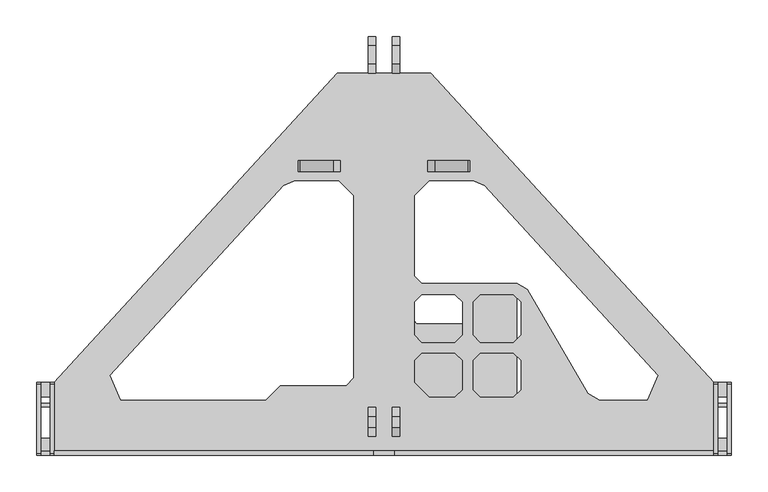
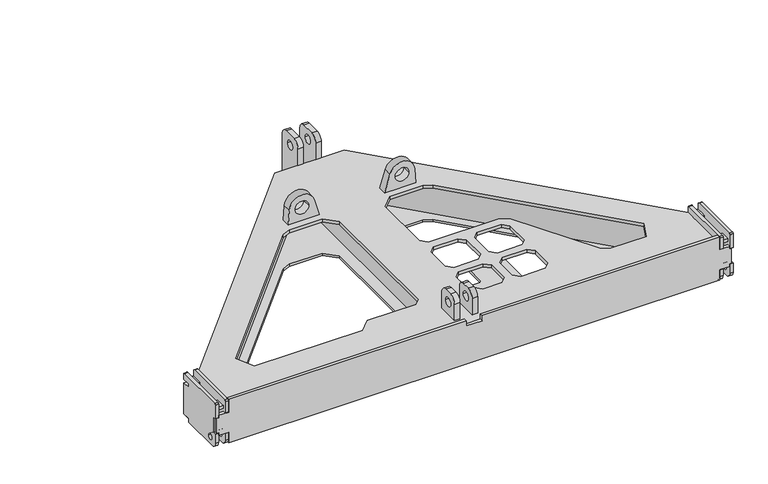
"""IFC4 building model written with IfcOpenShell, lengths in millimetres: proxy geometry, d&b SL-Series KSLi Flying Frame : KSLi Flying Frame."""

from ifc_helpers import new_model, si_unit, point, frame, frame_2d, origin, origin_with_axes, place, context, project, spatial, polyline, circle_curve, trimmed, segment, composite_curve, outline, extrude, source, transform, mapped, element, save


def communication_devices_b4faaad9(model_context):
    return source(origin(), model_context, "Body", "SweptSolid", [
        extrude(outline(polyline([(-435.1164011, 93.4221199), (-438.8083101, 96.7940344), (-54.4100512, 517.6716633), (-50.7181421, 514.2997488), (-435.1164011, 93.4221199)])), frame((0.0, 0.0, 4.0), z_axis=(0.0, 0.0, 1.0), x_axis=(1.0, 0.0, 0.0)), (0.0, 0.0, 1.0), 61.0),
        extrude(outline(polyline([(-35.950506, 500.8120906), (-420.348765, 79.9344617), (-424.040674, 83.3063762), (-39.6424151, 504.1840051), (-35.950506, 500.8120906)])), frame((0.0, 0.0, 4.0), z_axis=(0.0, 0.0, 1.0), x_axis=(1.0, 0.0, 0.0)), (0.0, 0.0, 1.0), 61.0),
        extrude(outline(polyline([(435.1164011, 93.4221199), (50.7181421, 514.2997488), (54.4100512, 517.6716633), (438.8083101, 96.7940344), (435.1164011, 93.4221199)])), frame((0.0, 0.0, 4.0), z_axis=(0.0, 0.0, 1.0), x_axis=(1.0, 0.0, 0.0)), (0.0, 0.0, 1.0), 61.0),
        extrude(outline(polyline([(35.950506, 500.8120906), (39.6424151, 504.1840051), (424.040674, 83.3063762), (420.348765, 79.9344617), (35.950506, 500.8120906)])), frame((0.0, 0.0, 4.0), z_axis=(0.0, 0.0, 1.0), x_axis=(1.0, 0.0, 0.0)), (0.0, 0.0, 1.0), 61.0),
        extrude(outline(composite_curve([segment(trimmed(circle_curve(frame_2d((559.5, 103.0)), 12.5), [point((559.5, 115.5))], [point((572.0, 103.0))], False, "CARTESIAN"), True, "CONTINUOUS"), segment(polyline([(572.0, 103.0), (572.0, 16.5)]), True, "CONTINUOUS"), segment(trimmed(circle_curve(frame_2d((559.5, 16.5)), 12.5), [point((572.0, 16.5))], [point((559.5, 4.0))], False, "CARTESIAN"), True, "CONTINUOUS"), segment(polyline([(559.5, 4.0), (70.25, 4.0), (70.25, 65.0), (522.0, 65.0), (522.0, 103.0)]), True, "CONTINUOUS"), segment(trimmed(circle_curve(frame_2d((534.5, 103.0)), 12.5), [point((522.0, 103.0))], [point((534.5, 115.5))], False, "CARTESIAN"), True, "CONTINUOUS"), segment(polyline([(534.5, 115.5), (559.5, 115.5)]), True, "CONTINUOUS")], self_intersect=False), holes=[composite_curve([segment(trimmed(circle_curve(frame_2d((547.0, 95.5)), 8.2930381), [point((538.7069619, 95.5))], [point((555.2930381, 95.5))], True, "CARTESIAN"), True, "CONTINUOUS"), segment(trimmed(circle_curve(frame_2d((547.0, 95.5)), 8.2930381), [point((555.2930381, 95.5))], [point((538.7069619, 95.5))], True, "CARTESIAN"), True, "CONTINUOUS")], self_intersect=False), composite_curve([segment(trimmed(circle_curve(frame_2d((547.0, 22.0)), 8.2930381), [point((538.7069619, 22.0))], [point((555.2930381, 22.0))], True, "CARTESIAN"), True, "CONTINUOUS"), segment(trimmed(circle_curve(frame_2d((547.0, 22.0)), 8.2930381), [point((555.2930381, 22.0))], [point((538.7069619, 22.0))], True, "CARTESIAN"), True, "CONTINUOUS")], self_intersect=False)]), frame((11.25, 0.0, 0.0), z_axis=(1.0, 0.0, 0.0), x_axis=(0.0, 1.0, 0.0)), (0.0, 0.0, 1.0), 10.0),
        extrude(outline(composite_curve([segment(polyline([(64.0, 71.0), (24.0, 71.0), (24.0, 103.0091443)]), True, "CONTINUOUS"), segment(trimmed(circle_curve(frame_2d((36.4908557, 103.0091443)), 12.4908557), [point((24.0, 103.0091443))], [point((36.4908557, 115.5))], False, "CARTESIAN"), True, "CONTINUOUS"), segment(polyline([(36.4908557, 115.5), (51.5, 115.5)]), True, "CONTINUOUS"), segment(trimmed(circle_curve(frame_2d((51.5, 103.0)), 12.5), [point((51.5, 115.5))], [point((64.0, 103.0))], False, "CARTESIAN"), True, "CONTINUOUS"), segment(polyline([(64.0, 103.0), (64.0, 71.0)]), True, "CONTINUOUS")], self_intersect=False), holes=[composite_curve([segment(trimmed(circle_curve(frame_2d((43.9954278, 95.5)), 8.2930381), [point((35.7023897, 95.5))], [point((52.288466, 95.5))], True, "CARTESIAN"), True, "CONTINUOUS"), segment(trimmed(circle_curve(frame_2d((43.9954278, 95.5)), 8.2930381), [point((52.288466, 95.5))], [point((35.7023897, 95.5))], True, "CARTESIAN"), True, "CONTINUOUS")], self_intersect=False)]), frame((11.25, 0.0, 0.0), z_axis=(1.0, 0.0, 0.0), x_axis=(0.0, 1.0, 0.0)), (0.0, 0.0, 1.0), 10.0),
        extrude(outline(polyline([(-472.75, 98.0), (-451.25, 98.0), (-64.0, 522.0), (64.0, 522.0), (451.25, 98.0), (472.75, 98.0), (472.75, 82.5), (469.75, 82.5), (469.75, 78.0), (457.25, 78.0), (457.25, 82.5), (451.25, 82.5), (451.25, 4.0), (-451.25, 4.0), (-451.25, 82.5), (-457.25, 82.5), (-457.25, 78.0), (-469.75, 78.0), (-469.75, 82.5), (-472.75, 82.5), (-472.75, 98.0)]), holes=[polyline([(-360.1013992, 74.0), (-62.0, 74.0), (-42.0, 94.0), (-42.0, 354.0), (-62.0, 374.0), (-122.6367766, 374.0), (-137.4044127, 367.4876582), (-374.8690353, 107.4876582), (-360.1013992, 74.0)]), polyline([(122.6367766, 374.0), (62.0, 374.0), (42.0, 354.0), (42.0, 182.0), (45.0, 179.0), (114.5, 179.0), (117.5, 182.0), (117.5, 221.0), (120.5, 224.0), (179.5, 224.0), (182.5, 221.0), (182.5, 77.0), (185.5, 74.0), (360.1013992, 74.0), (374.8690353, 107.4876582), (137.4044127, 367.4876582), (122.6367766, 374.0)])]), origin_with_axes(), (0.0, 0.0, 1.0), 4.0),
        extrude(outline(composite_curve([segment(polyline([(0.0, 84.0), (96.0, 84.0)]), True, "CONTINUOUS"), segment(trimmed(circle_curve(frame_2d((96.0, 82.0)), 2.0), [point((96.0, 84.0))], [point((98.0, 82.0))], False, "CARTESIAN"), True, "CONTINUOUS"), segment(polyline([(98.0, 82.0), (98.0, 71.5), (82.5, 71.5), (82.5, 64.5), (98.0, 64.5), (98.0, 4.5), (82.5, 4.5), (82.5, -1.0)]), True, "CONTINUOUS"), segment(trimmed(circle_curve(frame_2d((80.5, -1.0)), 2.0), [point((82.5, -1.0))], [point((80.5, -3.0))], False, "CARTESIAN"), True, "CONTINUOUS"), segment(polyline([(80.5, -3.0), (8.0, -3.0)]), True, "CONTINUOUS"), segment(trimmed(circle_curve(frame_2d((8.0, 7.0)), 10.0), [point((8.0, -3.0))], [point((-2.0, 7.0))], False, "CARTESIAN"), True, "CONTINUOUS"), segment(polyline([(-2.0, 7.0), (-2.0, 20.0), (4.5, 20.0), (4.5, 60.0), (-2.0, 60.0), (-2.0, 82.0)]), True, "CONTINUOUS"), segment(trimmed(circle_curve(frame_2d((0.0, 82.0)), 2.0), [point((-2.0, 82.0))], [point((0.0, 84.0))], False, "CARTESIAN"), True, "CONTINUOUS")], self_intersect=False), holes=[composite_curve([segment(trimmed(circle_curve(frame_2d((14.0, 11.0)), 5.15), [point((8.85, 11.0))], [point((19.15, 11.0))], True, "CARTESIAN"), True, "CONTINUOUS"), segment(trimmed(circle_curve(frame_2d((14.0, 11.0)), 5.15), [point((19.15, 11.0))], [point((8.85, 11.0))], True, "CARTESIAN"), True, "CONTINUOUS")], self_intersect=False)]), frame((451.25, 0.0, 0.0), z_axis=(1.0, 0.0, 0.0), x_axis=(0.0, 1.0, 0.0)), (0.0, 0.0, 1.0), 6.0),
        extrude(outline(composite_curve([segment(polyline([(0.0, 84.0), (96.0, 84.0)]), True, "CONTINUOUS"), segment(trimmed(circle_curve(frame_2d((96.0, 82.0)), 2.0), [point((96.0, 84.0))], [point((98.0, 82.0))], False, "CARTESIAN"), True, "CONTINUOUS"), segment(polyline([(98.0, 82.0), (98.0, 71.5), (82.5, 71.5), (82.5, 64.5), (98.0, 64.5), (98.0, 4.5), (82.5, 4.5), (82.5, -1.0)]), True, "CONTINUOUS"), segment(trimmed(circle_curve(frame_2d((80.5, -1.0)), 2.0), [point((82.5, -1.0))], [point((80.5, -3.0))], False, "CARTESIAN"), True, "CONTINUOUS"), segment(polyline([(80.5, -3.0), (8.0, -3.0)]), True, "CONTINUOUS"), segment(trimmed(circle_curve(frame_2d((8.0, 7.0)), 10.0), [point((8.0, -3.0))], [point((-2.0, 7.0))], False, "CARTESIAN"), True, "CONTINUOUS"), segment(polyline([(-2.0, 7.0), (-2.0, 24.9561632), (4.5, 24.9561632), (4.5, 55.0), (-2.0, 55.0), (-2.0, 82.0)]), True, "CONTINUOUS"), segment(trimmed(circle_curve(frame_2d((0.0, 82.0)), 2.0), [point((-2.0, 82.0))], [point((0.0, 84.0))], False, "CARTESIAN"), True, "CONTINUOUS")], self_intersect=False), holes=[composite_curve([segment(trimmed(circle_curve(frame_2d((14.0, 11.0)), 5.15), [point((8.85, 11.0))], [point((19.15, 11.0))], True, "CARTESIAN"), True, "CONTINUOUS"), segment(trimmed(circle_curve(frame_2d((14.0, 11.0)), 5.15), [point((19.15, 11.0))], [point((8.85, 11.0))], True, "CARTESIAN"), True, "CONTINUOUS")], self_intersect=False)]), frame((469.75, 0.0, 0.0), z_axis=(1.0, 0.0, 0.0), x_axis=(0.0, 1.0, 0.0)), (0.0, 0.0, 1.0), 6.0),
        extrude(outline(polyline([(457.25, 4.0), (457.25, 21.0), (469.75, 21.0), (469.75, 4.0), (457.25, 4.0)])), frame((0.0, 0.0, 65.0), z_axis=(0.0, 0.0, 1.0), x_axis=(1.0, 0.0, 0.0)), (0.0, 0.0, 1.0), 6.0),
        extrude(outline(polyline([(457.25, 78.0), (457.25, 98.0), (469.75, 98.0), (469.75, 78.0), (457.25, 78.0)])), frame((0.0, 0.0, 65.0), z_axis=(0.0, 0.0, 1.0), x_axis=(1.0, 0.0, 0.0)), (0.0, 0.0, 1.0), 6.0),
        extrude(outline(polyline([(457.25, 64.25), (457.25, 69.25), (469.75, 69.25), (469.75, 64.25), (457.25, 64.25)])), frame((0.0, 0.0, 8.0), z_axis=(0.0, 0.0, 1.0), x_axis=(1.0, 0.0, 0.0)), (0.0, 0.0, 1.0), 53.0),
        extrude(outline(polyline([(84.0, -451.25), (59.5, -451.25), (59.5, -469.75), (54.5, -469.75), (54.5, -472.75), (25.5, -472.75), (25.5, -469.75), (20.5, -469.75), (20.5, -451.25), (0.0, -451.25), (0.0, 451.25), (20.5, 451.25), (20.5, 469.75), (25.5, 469.75), (25.5, 472.75), (54.5, 472.75), (54.5, 469.75), (59.5, 469.75), (59.5, 451.25), (84.0, 451.25), (84.0, 15.0), (74.0, 15.0), (74.0, -15.0), (84.0, -15.0), (84.0, -451.25)])), frame((0.0, -2.0, 0.0), z_axis=(0.0, 1.0, 0.0), x_axis=(0.0, 0.0, 1.0)), (0.0, 0.0, 1.0), 6.0),
        extrude(outline(composite_curve([segment(polyline([(0.0, 84.0), (96.0, 84.0)]), True, "CONTINUOUS"), segment(trimmed(circle_curve(frame_2d((96.0, 82.0)), 2.0), [point((96.0, 84.0))], [point((98.0, 82.0))], False, "CARTESIAN"), True, "CONTINUOUS"), segment(polyline([(98.0, 82.0), (98.0, 71.5), (82.5, 71.5), (82.5, 64.5), (98.0, 64.5), (98.0, 4.5), (82.5, 4.5), (82.5, -1.0)]), True, "CONTINUOUS"), segment(trimmed(circle_curve(frame_2d((80.5, -1.0)), 2.0), [point((82.5, -1.0))], [point((80.5, -3.0))], False, "CARTESIAN"), True, "CONTINUOUS"), segment(polyline([(80.5, -3.0), (8.0, -3.0)]), True, "CONTINUOUS"), segment(trimmed(circle_curve(frame_2d((8.0, 7.0)), 10.0), [point((8.0, -3.0))], [point((-2.0, 7.0))], False, "CARTESIAN"), True, "CONTINUOUS"), segment(polyline([(-2.0, 7.0), (-2.0, 20.0), (4.5, 20.0), (4.5, 60.0), (-2.0, 60.0), (-2.0, 82.0)]), True, "CONTINUOUS"), segment(trimmed(circle_curve(frame_2d((0.0, 82.0)), 2.0), [point((-2.0, 82.0))], [point((0.0, 84.0))], False, "CARTESIAN"), True, "CONTINUOUS")], self_intersect=False), holes=[composite_curve([segment(trimmed(circle_curve(frame_2d((14.0, 11.0)), 5.15), [point((8.85, 11.0))], [point((19.15, 11.0))], True, "CARTESIAN"), True, "CONTINUOUS"), segment(trimmed(circle_curve(frame_2d((14.0, 11.0)), 5.15), [point((19.15, 11.0))], [point((8.85, 11.0))], True, "CARTESIAN"), True, "CONTINUOUS")], self_intersect=False)]), frame((-457.25, 0.0, 0.0), z_axis=(1.0, 0.0, 0.0), x_axis=(0.0, 1.0, 0.0)), (0.0, 0.0, 1.0), 6.0),
        extrude(outline(composite_curve([segment(polyline([(0.0, 84.0), (96.0, 84.0)]), True, "CONTINUOUS"), segment(trimmed(circle_curve(frame_2d((96.0, 82.0)), 2.0), [point((96.0, 84.0))], [point((98.0, 82.0))], False, "CARTESIAN"), True, "CONTINUOUS"), segment(polyline([(98.0, 82.0), (98.0, 71.5), (82.5, 71.5), (82.5, 64.5), (98.0, 64.5), (98.0, 4.5), (82.5, 4.5), (82.5, -1.0)]), True, "CONTINUOUS"), segment(trimmed(circle_curve(frame_2d((80.5, -1.0)), 2.0), [point((82.5, -1.0))], [point((80.5, -3.0))], False, "CARTESIAN"), True, "CONTINUOUS"), segment(polyline([(80.5, -3.0), (8.0, -3.0)]), True, "CONTINUOUS"), segment(trimmed(circle_curve(frame_2d((8.0, 7.0)), 10.0), [point((8.0, -3.0))], [point((-2.0, 7.0))], False, "CARTESIAN"), True, "CONTINUOUS"), segment(polyline([(-2.0, 7.0), (-2.0, 24.9561632), (4.5, 24.9561632), (4.5, 55.0), (-2.0, 55.0), (-2.0, 82.0)]), True, "CONTINUOUS"), segment(trimmed(circle_curve(frame_2d((0.0, 82.0)), 2.0), [point((-2.0, 82.0))], [point((0.0, 84.0))], False, "CARTESIAN"), True, "CONTINUOUS")], self_intersect=False), holes=[composite_curve([segment(trimmed(circle_curve(frame_2d((14.0, 11.0)), 5.15), [point((8.85, 11.0))], [point((19.15, 11.0))], True, "CARTESIAN"), True, "CONTINUOUS"), segment(trimmed(circle_curve(frame_2d((14.0, 11.0)), 5.15), [point((19.15, 11.0))], [point((8.85, 11.0))], True, "CARTESIAN"), True, "CONTINUOUS")], self_intersect=False)]), frame((-475.75, 0.0, 0.0), z_axis=(1.0, 0.0, 0.0), x_axis=(0.0, 1.0, 0.0)), (0.0, 0.0, 1.0), 6.0),
        extrude(outline(composite_curve([segment(trimmed(circle_curve(frame_2d((97.0403038, 92.0042964)), 23.4926614), [point((98.8207703, 115.4293915))], [point((103.7189339, 69.4809522))], False, "CARTESIAN"), True, "CONTINUOUS"), segment(polyline([(103.7189339, 69.4809522), (71.0, 59.7791221), (71.0, 117.5439592), (98.8207703, 115.4293915)]), True, "CONTINUOUS")], self_intersect=False), holes=[composite_curve([segment(trimmed(circle_curve(frame_2d((95.9465538, 92.0042964)), 12.4025698), [point((95.9465538, 104.4068662))], [point((95.9465538, 79.6017267))], True, "CARTESIAN"), True, "CONTINUOUS"), segment(trimmed(circle_curve(frame_2d((95.9465538, 92.0042964)), 12.4025698), [point((95.9465538, 79.6017267))], [point((95.9465538, 104.4068662))], True, "CARTESIAN"), True, "CONTINUOUS")], self_intersect=False)]), frame((0.0, 386.75, 0.0), z_axis=(0.0, 1.0, 0.0), x_axis=(0.0, 0.0, 1.0)), (0.0, 0.0, 1.0), 15.0),
        extrude(outline(composite_curve([segment(polyline([(98.8207703, -115.4293915), (71.0, -117.5439592), (71.0, -59.7791221), (103.7189339, -69.4809522)]), True, "CONTINUOUS"), segment(trimmed(circle_curve(frame_2d((97.0403038, -92.0042964)), 23.4926614), [point((103.7189339, -69.4809522))], [point((98.8207703, -115.4293915))], False, "CARTESIAN"), True, "CONTINUOUS")], self_intersect=False), holes=[composite_curve([segment(trimmed(circle_curve(frame_2d((95.9465538, -92.0042964)), 12.4025698), [point((95.9465538, -79.6017267))], [point((95.9465538, -104.4068662))], True, "CARTESIAN"), True, "CONTINUOUS"), segment(trimmed(circle_curve(frame_2d((95.9465538, -92.0042964)), 12.4025698), [point((95.9465538, -104.4068662))], [point((95.9465538, -79.6017267))], True, "CARTESIAN"), True, "CONTINUOUS")], self_intersect=False)]), frame((0.0, 386.75, 0.0), z_axis=(0.0, 1.0, 0.0), x_axis=(0.0, 0.0, 1.0)), (0.0, 0.0, 1.0), 15.0),
        extrude(outline(composite_curve([segment(trimmed(circle_curve(frame_2d((559.5, 103.0)), 12.5), [point((559.5, 115.5))], [point((572.0, 103.0))], False, "CARTESIAN"), True, "CONTINUOUS"), segment(polyline([(572.0, 103.0), (572.0, 16.5)]), True, "CONTINUOUS"), segment(trimmed(circle_curve(frame_2d((559.5, 16.5)), 12.5), [point((572.0, 16.5))], [point((559.5, 4.0))], False, "CARTESIAN"), True, "CONTINUOUS"), segment(polyline([(559.5, 4.0), (69.25, 4.0), (69.25, 65.0), (522.0, 65.0), (522.0, 103.0)]), True, "CONTINUOUS"), segment(trimmed(circle_curve(frame_2d((534.5, 103.0)), 12.5), [point((522.0, 103.0))], [point((534.5, 115.5))], False, "CARTESIAN"), True, "CONTINUOUS"), segment(polyline([(534.5, 115.5), (559.5, 115.5)]), True, "CONTINUOUS")], self_intersect=False), holes=[composite_curve([segment(trimmed(circle_curve(frame_2d((547.0, 95.5)), 8.2930381), [point((538.7069619, 95.5))], [point((555.2930381, 95.5))], True, "CARTESIAN"), True, "CONTINUOUS"), segment(trimmed(circle_curve(frame_2d((547.0, 95.5)), 8.2930381), [point((555.2930381, 95.5))], [point((538.7069619, 95.5))], True, "CARTESIAN"), True, "CONTINUOUS")], self_intersect=False), composite_curve([segment(trimmed(circle_curve(frame_2d((547.0, 22.0)), 8.2930381), [point((538.7069619, 22.0))], [point((555.2930381, 22.0))], True, "CARTESIAN"), True, "CONTINUOUS"), segment(trimmed(circle_curve(frame_2d((547.0, 22.0)), 8.2930381), [point((555.2930381, 22.0))], [point((538.7069619, 22.0))], True, "CARTESIAN"), True, "CONTINUOUS")], self_intersect=False)]), frame((-21.25, 0.0, 0.0), z_axis=(1.0, 0.0, 0.0), x_axis=(0.0, 1.0, 0.0)), (0.0, 0.0, 1.0), 10.0),
        extrude(outline(composite_curve([segment(polyline([(64.0, 71.0), (24.0, 71.0), (24.0, 103.0091443)]), True, "CONTINUOUS"), segment(trimmed(circle_curve(frame_2d((36.4908557, 103.0091443)), 12.4908557), [point((24.0, 103.0091443))], [point((36.4908557, 115.5))], False, "CARTESIAN"), True, "CONTINUOUS"), segment(polyline([(36.4908557, 115.5), (51.5, 115.5)]), True, "CONTINUOUS"), segment(trimmed(circle_curve(frame_2d((51.5, 103.0)), 12.5), [point((51.5, 115.5))], [point((64.0, 103.0))], False, "CARTESIAN"), True, "CONTINUOUS"), segment(polyline([(64.0, 103.0), (64.0, 71.0)]), True, "CONTINUOUS")], self_intersect=False), holes=[composite_curve([segment(trimmed(circle_curve(frame_2d((43.9954278, 95.5)), 8.2930381), [point((35.7023897, 95.5))], [point((52.288466, 95.5))], True, "CARTESIAN"), True, "CONTINUOUS"), segment(trimmed(circle_curve(frame_2d((43.9954278, 95.5)), 8.2930381), [point((52.288466, 95.5))], [point((35.7023897, 95.5))], True, "CARTESIAN"), True, "CONTINUOUS")], self_intersect=False)]), frame((-21.25, 0.0, 0.0), z_axis=(1.0, 0.0, 0.0), x_axis=(0.0, 1.0, 0.0)), (0.0, 0.0, 1.0), 10.0),
        extrude(outline(polyline([(-451.25, 98.0), (-64.0, 522.0), (64.0, 522.0), (451.25, 98.0), (451.25, 4.0), (-451.25, 4.0), (-451.25, 98.0)]), holes=[polyline([(42.0, 98.0), (62.0, 78.0), (97.0, 78.0), (107.0, 88.0), (107.0, 128.0), (97.0, 138.0), (52.0, 138.0), (42.0, 128.0), (42.0, 98.0)]), polyline([(122.0, 128.0), (122.0, 88.0), (132.0, 78.0), (177.0, 78.0), (187.0, 88.0), (187.0, 128.0), (177.0, 138.0), (132.0, 138.0), (122.0, 128.0)]), polyline([(122.0, 163.0), (132.0, 153.0), (177.0, 153.0), (187.0, 163.0), (187.0, 208.0), (177.0, 218.0), (132.0, 218.0), (122.0, 208.0), (122.0, 163.0)]), polyline([(107.0, 163.0), (107.0, 208.0), (97.0, 218.0), (52.0, 218.0), (42.0, 208.0), (42.0, 163.0), (52.0, 153.0), (97.0, 153.0), (107.0, 163.0)]), polyline([(-137.4044127, 367.4876582), (-374.8690353, 107.4876582), (-360.1013992, 74.0), (-162.0, 74.0), (-142.0, 94.0), (-52.0, 94.0), (-42.0, 104.0), (-42.0, 354.0), (-62.0, 374.0), (-122.6367766, 374.0), (-137.4044127, 367.4876582)]), polyline([(279.3760431, 82.660254), (294.3760431, 74.0), (360.1013992, 74.0), (374.8690353, 107.4876582), (137.4044127, 367.4876582), (122.6367766, 374.0), (62.0, 374.0), (42.0, 354.0), (42.0, 244.0), (52.0, 234.0), (182.0, 234.0), (197.0, 225.339746), (279.3760431, 82.660254)])]), frame((0.0, 0.0, 65.0), z_axis=(0.0, 0.0, 1.0), x_axis=(1.0, 0.0, 0.0)), (0.0, 0.0, 1.0), 6.0),
        extrude(outline(polyline([(-451.25, 4.0), (-451.25, 69.25), (451.25, 69.25), (451.25, 4.0), (-451.25, 4.0)])), frame((0.0, 0.0, 4.0), z_axis=(0.0, 0.0, 1.0), x_axis=(1.0, 0.0, 0.0)), (0.0, 0.0, 1.0), 61.0),
        extrude(outline(polyline([(-457.25, 21.0), (-457.25, 4.0), (-469.75, 4.0), (-469.75, 21.0), (-457.25, 21.0)])), frame((0.0, 0.0, 65.0), z_axis=(0.0, 0.0, 1.0), x_axis=(1.0, 0.0, 0.0)), (0.0, 0.0, 1.0), 6.0),
        extrude(outline(polyline([(-457.25, 98.0), (-457.25, 78.0), (-469.75, 78.0), (-469.75, 98.0), (-457.25, 98.0)])), frame((0.0, 0.0, 65.0), z_axis=(0.0, 0.0, 1.0), x_axis=(1.0, 0.0, 0.0)), (0.0, 0.0, 1.0), 6.0),
        extrude(outline(polyline([(-457.25, 69.25), (-457.25, 64.25), (-469.75, 64.25), (-469.75, 69.25), (-457.25, 69.25)])), frame((0.0, 0.0, 8.0), z_axis=(0.0, 0.0, 1.0), x_axis=(1.0, 0.0, 0.0)), (0.0, 0.0, 1.0), 53.0),
    ])


if __name__ == "__main__":
    model = new_model("IFC4")
    model_context = context("Model", 3, world=origin())
    ifc_project = project(units=[si_unit("LENGTHUNIT", "METRE", prefix="MILLI")], contexts=[model_context])
    site = spatial("IfcSite", under=ifc_project)
    building = spatial("IfcBuilding", under=site)
    placement = place(None, origin())
    communication_devices_shape = communication_devices_b4faaad9(model_context)
    element("IfcBuildingElementProxy", 1, Name="d&b SL-Series KSLi Flying Frame : KSLi Flying Frame", ObjectType="d&b SL-Series KSLi Flying Frame : KSLi Flying Frame", at=placement, inside=building, context=model_context, shape_type="MappedRepresentation", body=[
        mapped(communication_devices_shape, transform((0.0, 0.0, 0.0), x_axis=(1.0, 0.0, 0.0), y_axis=(0.0, 1.0, 0.0), z_axis=(0.0, 0.0, 1.0))),
    ])
    save(model, "model.ifc")
